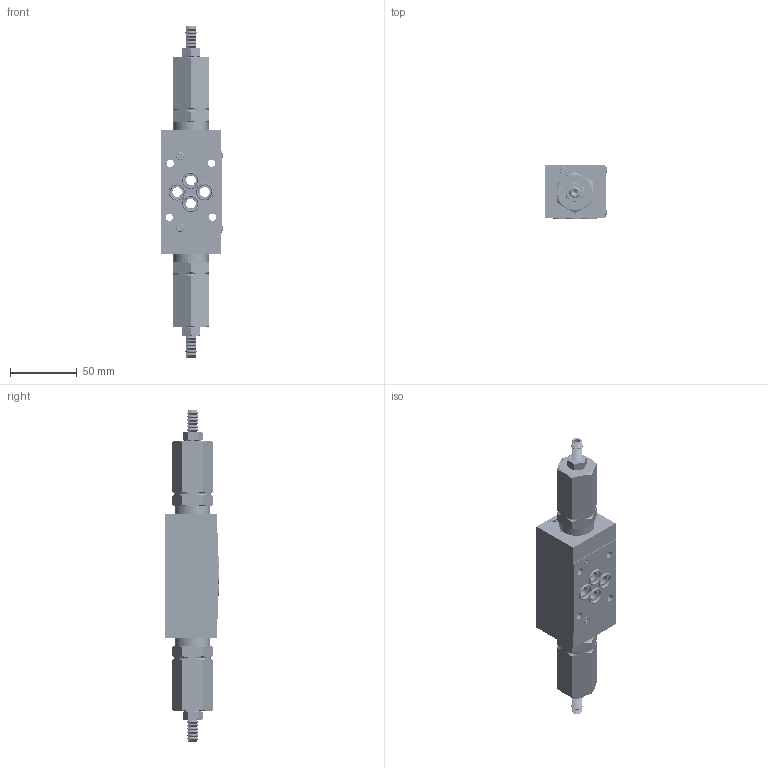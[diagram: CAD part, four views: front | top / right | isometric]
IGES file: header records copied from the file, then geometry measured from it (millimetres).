
Start section: SolidWorks IGES file using analytic representation for surfaces
Global section: file name: C:\Users\pc-te25\Desktop\ASSIEME 379-4-AB.IGS; native system: SolidWorks 2018; preprocessor: SolidWorks 2018; author: pc-te25; date: 191014.105026; units: millimetre
Bounding box: 46.66 x 41.1 x 249.6 mm (x, y, z)
Surface area: 87482.1 mm2 (no closed solid volume)
Topology: 0 solids, 0 shells, 3734 faces, 38258 edges, 38230 vertices
Faces by surface type: bspline 1966, revolution 1768
